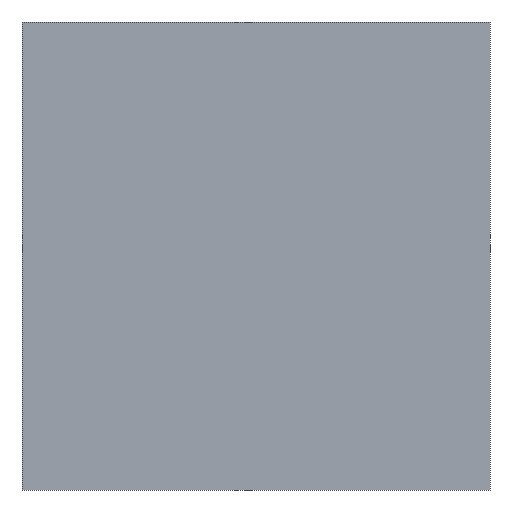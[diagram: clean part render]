
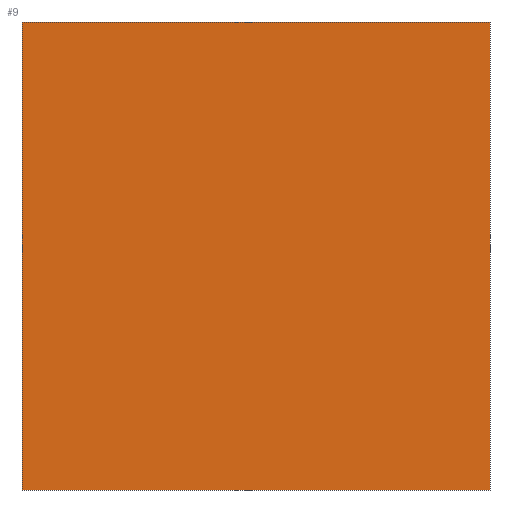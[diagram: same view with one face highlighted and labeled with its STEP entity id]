
A CAD part, front view. The second image highlights one B-rep face of the part: STEP entity #9.
In plain terms, the highlighted planar face has unit normal (0, -1, 0).
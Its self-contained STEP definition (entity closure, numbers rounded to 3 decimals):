
#2 = CARTESIAN_POINT ( 'NONE',  ( 5., 0., -5. ) ) ;
#4 = VERTEX_POINT ( 'NONE', #2 ) ;
#9 = ADVANCED_FACE ( 'NONE', ( #19 ), #78, .F. ) ;
#10 = DIRECTION ( 'NONE',  ( 1., 0., 0. ) ) ;
#16 = EDGE_CURVE ( 'NONE', #204, #37, #116, .T. ) ;
#19 = FACE_OUTER_BOUND ( 'NONE', #76, .T. ) ;
#23 = ORIENTED_EDGE ( 'NONE', *, *, #16, .F. ) ;
#24 = DIRECTION ( 'NONE',  ( 0., 0., 1. ) ) ;
#25 = CARTESIAN_POINT ( 'NONE',  ( -5., 0., -5. ) ) ;
#28 = LINE ( 'NONE', #25, #72 ) ;
#37 = VERTEX_POINT ( 'NONE', #149 ) ;
#38 = EDGE_CURVE ( 'NONE', #93, #204, #151, .T. ) ;
#52 = VECTOR ( 'NONE', #103, 1000. ) ;
#72 = VECTOR ( 'NONE', #210, 1000. ) ;
#76 = EDGE_LOOP ( 'NONE', ( #80, #23, #202, #221 ) ) ;
#78 = PLANE ( 'NONE',  #154 ) ;
#80 = ORIENTED_EDGE ( 'NONE', *, *, #99, .F. ) ;
#84 = CARTESIAN_POINT ( 'NONE',  ( -5., 0., -5. ) ) ;
#86 = CARTESIAN_POINT ( 'NONE',  ( -5., 0., 5. ) ) ;
#93 = VERTEX_POINT ( 'NONE', #155 ) ;
#98 = CARTESIAN_POINT ( 'NONE',  ( -5., 0., 5. ) ) ;
#99 = EDGE_CURVE ( 'NONE', #37, #4, #150, .T. ) ;
#101 = EDGE_CURVE ( 'NONE', #4, #93, #28, .T. ) ;
#103 = DIRECTION ( 'NONE',  ( 0., 0., -1. ) ) ;
#116 = LINE ( 'NONE', #98, #229 ) ;
#124 = VECTOR ( 'NONE', #226, 1000. ) ;
#131 = DIRECTION ( 'NONE',  ( 0., 1., 0. ) ) ;
#146 = CARTESIAN_POINT ( 'NONE',  ( 0., 0., 0. ) ) ;
#149 = CARTESIAN_POINT ( 'NONE',  ( 5., 0., 5. ) ) ;
#150 = LINE ( 'NONE', #225, #52 ) ;
#151 = LINE ( 'NONE', #84, #124 ) ;
#154 = AXIS2_PLACEMENT_3D ( 'NONE', #146, #131, #24 ) ;
#155 = CARTESIAN_POINT ( 'NONE',  ( -5., 0., -5. ) ) ;
#202 = ORIENTED_EDGE ( 'NONE', *, *, #38, .F. ) ;
#204 = VERTEX_POINT ( 'NONE', #86 ) ;
#210 = DIRECTION ( 'NONE',  ( -1., 0., 0. ) ) ;
#221 = ORIENTED_EDGE ( 'NONE', *, *, #101, .F. ) ;
#225 = CARTESIAN_POINT ( 'NONE',  ( 5., 0., -5. ) ) ;
#226 = DIRECTION ( 'NONE',  ( 0., 0., 1. ) ) ;
#229 = VECTOR ( 'NONE', #10, 1000. ) ;
